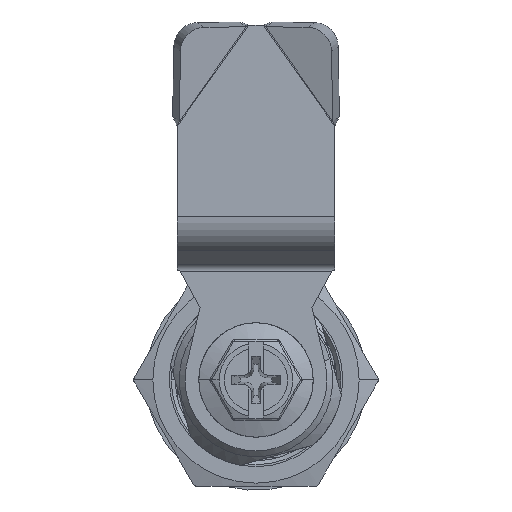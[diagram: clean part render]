
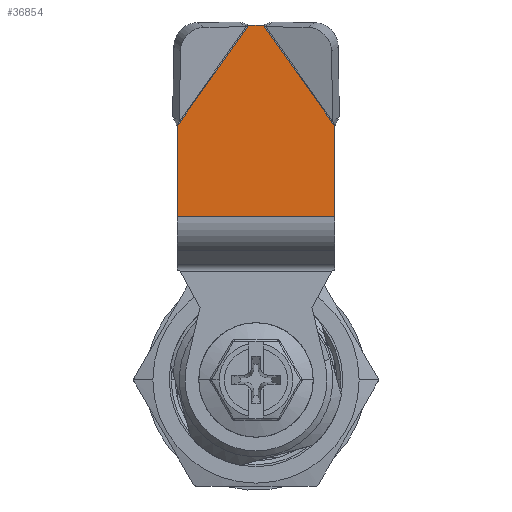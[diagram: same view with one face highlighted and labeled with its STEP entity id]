
A CAD part, front view. The second image highlights one B-rep face of the part: STEP entity #36854.
In plain terms, the highlighted planar face has unit normal (0, -1, 0).
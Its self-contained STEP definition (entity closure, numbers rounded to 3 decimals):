
#792 = VECTOR ( 'NONE', #22860, 1000. ) ;
#899 = EDGE_CURVE ( 'NONE', #2355, #14476, #42914, .T. ) ;
#922 = CARTESIAN_POINT ( 'NONE',  ( 32.197, -10., 10. ) ) ;
#1714 = VERTEX_POINT ( 'NONE', #39693 ) ;
#2355 = VERTEX_POINT ( 'NONE', #10814 ) ;
#2391 = VECTOR ( 'NONE', #16104, 1000. ) ;
#2817 = CARTESIAN_POINT ( 'NONE',  ( 32.87, -10., 10. ) ) ;
#4087 = EDGE_LOOP ( 'NONE', ( #48803, #16973, #31071, #15742, #36722, #28508 ) ) ;
#4255 = DIRECTION ( 'NONE',  ( -0.816, 0., -0.578 ) ) ;
#6268 = PLANE ( 'NONE',  #37735 ) ;
#7349 = DIRECTION ( 'NONE',  ( 0., 0., 1. ) ) ;
#7826 = CARTESIAN_POINT ( 'NONE',  ( 45., -10., 0. ) ) ;
#8233 = CARTESIAN_POINT ( 'NONE',  ( 20.74, -10., -10. ) ) ;
#8255 = EDGE_CURVE ( 'NONE', #11749, #2355, #29625, .T. ) ;
#9089 = VERTEX_POINT ( 'NONE', #39167 ) ;
#9907 = EDGE_CURVE ( 'NONE', #14476, #9089, #27633, .T. ) ;
#10814 = CARTESIAN_POINT ( 'NONE',  ( 32.197, -10., -10. ) ) ;
#11749 = VERTEX_POINT ( 'NONE', #15184 ) ;
#13654 = DIRECTION ( 'NONE',  ( 0., 0., 1. ) ) ;
#13922 = DIRECTION ( 'NONE',  ( -1., 0., 0. ) ) ;
#14476 = VERTEX_POINT ( 'NONE', #18938 ) ;
#15184 = CARTESIAN_POINT ( 'NONE',  ( 45., -10., -0.931 ) ) ;
#15742 = ORIENTED_EDGE ( 'NONE', *, *, #899, .F. ) ;
#16104 = DIRECTION ( 'NONE',  ( -1., 0., 0. ) ) ;
#16973 = ORIENTED_EDGE ( 'NONE', *, *, #44434, .T. ) ;
#18938 = CARTESIAN_POINT ( 'NONE',  ( 20.74, -10., -10. ) ) ;
#20715 = EDGE_CURVE ( 'NONE', #11749, #1714, #30681, .T. ) ;
#21282 = CARTESIAN_POINT ( 'NONE',  ( 45., -10., -10. ) ) ;
#22553 = VECTOR ( 'NONE', #4255, 1000. ) ;
#22860 = DIRECTION ( 'NONE',  ( 0.816, 0., -0.578 ) ) ;
#27344 = VECTOR ( 'NONE', #7349, 1000. ) ;
#27633 = LINE ( 'NONE', #8233, #28966 ) ;
#28508 = ORIENTED_EDGE ( 'NONE', *, *, #20715, .T. ) ;
#28966 = VECTOR ( 'NONE', #42440, 1000. ) ;
#29625 = LINE ( 'NONE', #45655, #22553 ) ;
#30681 = LINE ( 'NONE', #7826, #27344 ) ;
#31071 = ORIENTED_EDGE ( 'NONE', *, *, #9907, .F. ) ;
#32987 = VERTEX_POINT ( 'NONE', #922 ) ;
#34145 = CARTESIAN_POINT ( 'NONE',  ( 32.197, -10., 10. ) ) ;
#36313 = FACE_OUTER_BOUND ( 'NONE', #4087, .T. ) ;
#36722 = ORIENTED_EDGE ( 'NONE', *, *, #8255, .F. ) ;
#36854 = ADVANCED_FACE ( 'NONE', ( #36313 ), #6268, .F. ) ;
#37735 = AXIS2_PLACEMENT_3D ( 'NONE', #21282, #39025, #13654 ) ;
#39025 = DIRECTION ( 'NONE',  ( 0., 1., 0. ) ) ;
#39167 = CARTESIAN_POINT ( 'NONE',  ( 20.74, -10., 10. ) ) ;
#39293 = EDGE_CURVE ( 'NONE', #32987, #1714, #41562, .T. ) ;
#39623 = VECTOR ( 'NONE', #13922, 1000. ) ;
#39693 = CARTESIAN_POINT ( 'NONE',  ( 45., -10., 0.931 ) ) ;
#40514 = LINE ( 'NONE', #2817, #39623 ) ;
#41562 = LINE ( 'NONE', #34145, #792 ) ;
#42440 = DIRECTION ( 'NONE',  ( 0., 0., 1. ) ) ;
#42914 = LINE ( 'NONE', #46145, #2391 ) ;
#44434 = EDGE_CURVE ( 'NONE', #32987, #9089, #40514, .T. ) ;
#45655 = CARTESIAN_POINT ( 'NONE',  ( 45., -10., -0.931 ) ) ;
#46145 = CARTESIAN_POINT ( 'NONE',  ( 32.87, -10., -10. ) ) ;
#48803 = ORIENTED_EDGE ( 'NONE', *, *, #39293, .F. ) ;
